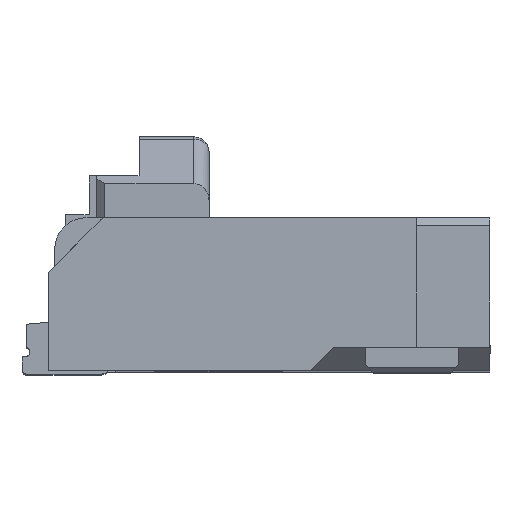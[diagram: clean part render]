
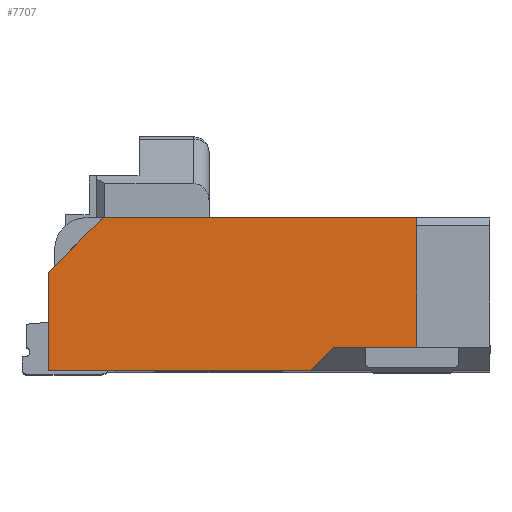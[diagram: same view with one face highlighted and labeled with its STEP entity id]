
A CAD part, top view. The second image highlights one B-rep face of the part: STEP entity #7707.
In plain terms, the highlighted planar face has unit normal (0, 0, 1).
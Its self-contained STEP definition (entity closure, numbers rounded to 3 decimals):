
#82 = EDGE_CURVE ( 'NONE', #4880, #4878, #8366, .T. ) ;
#105 = EDGE_CURVE ( 'NONE', #4878, #4856, #8414, .T. ) ;
#170 = EDGE_CURVE ( 'NONE', #4856, #4822, #9031, .T. ) ;
#172 = EDGE_CURVE ( 'NONE', #4817, #4811, #9035, .T. ) ;
#173 = EDGE_CURVE ( 'NONE', #4817, #4809, #9037, .T. ) ;
#174 = EDGE_CURVE ( 'NONE', #4809, #4880, #9039, .T. ) ;
#175 = EDGE_CURVE ( 'NONE', #4811, #4822, #9041, .T. ) ;
#2225 = ORIENTED_EDGE ( 'NONE', *, *, #172, .F. ) ;
#2226 = ORIENTED_EDGE ( 'NONE', *, *, #173, .T. ) ;
#2227 = ORIENTED_EDGE ( 'NONE', *, *, #174, .T. ) ;
#2228 = ORIENTED_EDGE ( 'NONE', *, *, #82, .T. ) ;
#2229 = ORIENTED_EDGE ( 'NONE', *, *, #105, .T. ) ;
#2230 = ORIENTED_EDGE ( 'NONE', *, *, #170, .T. ) ;
#2231 = ORIENTED_EDGE ( 'NONE', *, *, #175, .F. ) ;
#3689 = EDGE_LOOP ( 'NONE', ( #2225, #2226, #2227, #2228, #2229, #2230, #2231 ) ) ;
#4809 = VERTEX_POINT ( 'NONE', #15403 ) ;
#4811 = VERTEX_POINT ( 'NONE', #15405 ) ;
#4817 = VERTEX_POINT ( 'NONE', #15411 ) ;
#4822 = VERTEX_POINT ( 'NONE', #15416 ) ;
#4856 = VERTEX_POINT ( 'NONE', #15450 ) ;
#4878 = VERTEX_POINT ( 'NONE', #15472 ) ;
#4880 = VERTEX_POINT ( 'NONE', #15474 ) ;
#6545 = AXIS2_PLACEMENT_3D ( 'NONE', #18876, #18881, #18882 ) ;
#7707 = ADVANCED_FACE ( 'NONE', ( #18175 ), #18874, .F. ) ;
#8366 = LINE ( 'NONE', #8773, #8371 ) ;
#8371 = VECTOR ( 'NONE', #8779, 1000. ) ;
#8414 = LINE ( 'NONE', #8823, #8417 ) ;
#8417 = VECTOR ( 'NONE', #8824, 1000. ) ;
#8773 = CARTESIAN_POINT ( 'NONE',  ( 0.17, 0.02, 3.35 ) ) ;
#8779 = DIRECTION ( 'NONE',  ( 0., -1., 0. ) ) ;
#8823 = CARTESIAN_POINT ( 'NONE',  ( 0.17, 0.02, 3.35 ) ) ;
#8824 = DIRECTION ( 'NONE',  ( 1., 0., 0. ) ) ;
#8953 = CARTESIAN_POINT ( 'NONE',  ( 2., 0.17, 3.35 ) ) ;
#8954 = DIRECTION ( 'NONE',  ( 0.707, 0.707, 0. ) ) ;
#8957 = CARTESIAN_POINT ( 'NONE',  ( 2.53, 1., 3.35 ) ) ;
#8958 = DIRECTION ( 'NONE',  ( 0., -1., 0. ) ) ;
#8959 = CARTESIAN_POINT ( 'NONE',  ( 1.2, 1., 3.35 ) ) ;
#8960 = DIRECTION ( 'NONE',  ( -1., 0., 0. ) ) ;
#8961 = CARTESIAN_POINT ( 'NONE',  ( 0.52, 1., 3.35 ) ) ;
#8962 = DIRECTION ( 'NONE',  ( -0.707, -0.707, 0. ) ) ;
#8963 = CARTESIAN_POINT ( 'NONE',  ( 3., 0.17, 3.35 ) ) ;
#8964 = DIRECTION ( 'NONE',  ( -1., 0., 0. ) ) ;
#9031 = LINE ( 'NONE', #8953, #9034 ) ;
#9034 = VECTOR ( 'NONE', #8954, 1000. ) ;
#9035 = LINE ( 'NONE', #8957, #9038 ) ;
#9037 = LINE ( 'NONE', #8959, #9040 ) ;
#9038 = VECTOR ( 'NONE', #8958, 1000. ) ;
#9039 = LINE ( 'NONE', #8961, #9042 ) ;
#9040 = VECTOR ( 'NONE', #8960, 1000. ) ;
#9041 = LINE ( 'NONE', #8963, #9044 ) ;
#9042 = VECTOR ( 'NONE', #8962, 1000. ) ;
#9044 = VECTOR ( 'NONE', #8964, 1000. ) ;
#15403 = CARTESIAN_POINT ( 'NONE',  ( 0.52, 1., 3.35 ) ) ;
#15405 = CARTESIAN_POINT ( 'NONE',  ( 2.53, 0.17, 3.35 ) ) ;
#15411 = CARTESIAN_POINT ( 'NONE',  ( 2.53, 1., 3.35 ) ) ;
#15416 = CARTESIAN_POINT ( 'NONE',  ( 2., 0.17, 3.35 ) ) ;
#15450 = CARTESIAN_POINT ( 'NONE',  ( 1.85, 0.02, 3.35 ) ) ;
#15472 = CARTESIAN_POINT ( 'NONE',  ( 0.17, 0.02, 3.35 ) ) ;
#15474 = CARTESIAN_POINT ( 'NONE',  ( 0.17, 0.65, 3.35 ) ) ;
#18175 = FACE_OUTER_BOUND ( 'NONE', #3689, .T. ) ;
#18874 = PLANE ( 'NONE',  #6545 ) ;
#18876 = CARTESIAN_POINT ( 'NONE',  ( 3., 0.53, 3.35 ) ) ;
#18881 = DIRECTION ( 'NONE',  ( 0., 0., -1. ) ) ;
#18882 = DIRECTION ( 'NONE',  ( -1., 0., 0. ) ) ;
